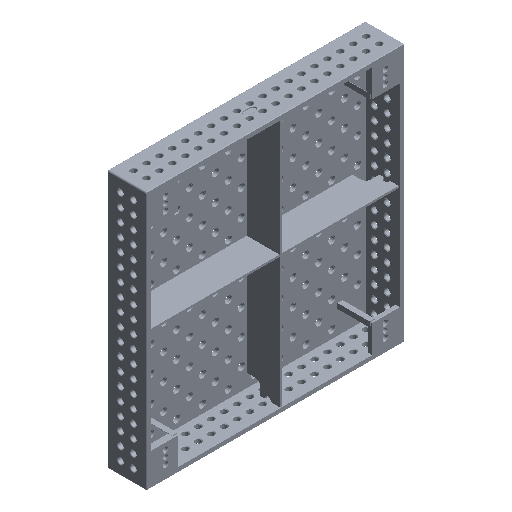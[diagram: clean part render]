
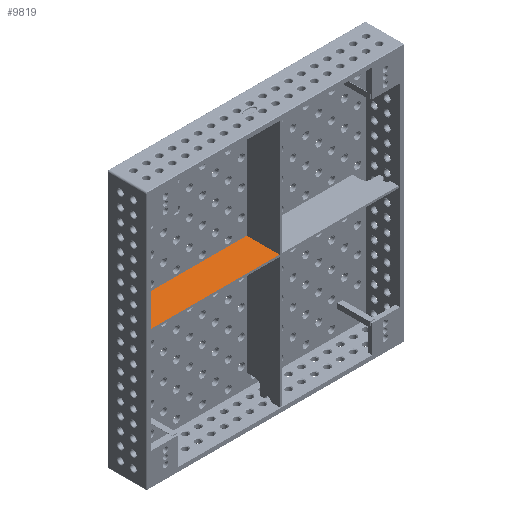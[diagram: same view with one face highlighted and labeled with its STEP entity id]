
A CAD part, isometric view. The second image highlights one B-rep face of the part: STEP entity #9819.
In plain terms, the highlighted planar face has unit normal (0, 0, 1).
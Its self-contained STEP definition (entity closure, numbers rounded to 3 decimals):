
#95 = DIRECTION ( 'NONE',  ( 0., 0., -1. ) ) ;
#452 = CARTESIAN_POINT ( 'NONE',  ( -482., -145., 29. ) ) ;
#786 = DIRECTION ( 'NONE',  ( 1., 0., 0. ) ) ;
#2246 = DIRECTION ( 'NONE',  ( 0., -1., 0. ) ) ;
#2568 = CARTESIAN_POINT ( 'NONE',  ( 21., -18., 29. ) ) ;
#2703 = VERTEX_POINT ( 'NONE', #17387 ) ;
#4111 = ORIENTED_EDGE ( 'NONE', *, *, #39587, .T. ) ;
#4781 = ORIENTED_EDGE ( 'NONE', *, *, #53793, .F. ) ;
#5331 = VECTOR ( 'NONE', #786, 1000. ) ;
#5633 = AXIS2_PLACEMENT_3D ( 'NONE', #13987, #95, #35148 ) ;
#6311 = DIRECTION ( 'NONE',  ( 0., -1., 0. ) ) ;
#6637 = CARTESIAN_POINT ( 'NONE',  ( -450., -70., 29. ) ) ;
#6923 = DIRECTION ( 'NONE',  ( 1., 0., 0. ) ) ;
#7234 = EDGE_CURVE ( 'NONE', #53060, #20561, #38112, .T. ) ;
#7292 = DIRECTION ( 'NONE',  ( 0., 0., 1. ) ) ;
#7881 = CARTESIAN_POINT ( 'NONE',  ( -482., -70., 29. ) ) ;
#9819 = ADVANCED_FACE ( 'NONE', ( #23438 ), #18482, .T. ) ;
#10335 = ORIENTED_EDGE ( 'NONE', *, *, #12219, .T. ) ;
#11521 = DIRECTION ( 'NONE',  ( -1., 0., 0. ) ) ;
#11863 = EDGE_LOOP ( 'NONE', ( #4781, #30481, #4111, #19753, #60994, #63781, #24911, #29550, #10335 ) ) ;
#12161 = CARTESIAN_POINT ( 'NONE',  ( -450., -70., 29. ) ) ;
#12205 = CARTESIAN_POINT ( 'NONE',  ( -450., -50., 29. ) ) ;
#12219 = EDGE_CURVE ( 'NONE', #20561, #49880, #39236, .T. ) ;
#12351 = DIRECTION ( 'NONE',  ( 0., -1., 0. ) ) ;
#13987 = CARTESIAN_POINT ( 'NONE',  ( -482., -100., 29. ) ) ;
#14035 = VECTOR ( 'NONE', #11521, 1000. ) ;
#17387 = CARTESIAN_POINT ( 'NONE',  ( -430., -18., 29. ) ) ;
#18048 = DIRECTION ( 'NONE',  ( 0., -1., 0. ) ) ;
#18482 = PLANE ( 'NONE',  #34821 ) ;
#19753 = ORIENTED_EDGE ( 'NONE', *, *, #26664, .T. ) ;
#20000 = EDGE_CURVE ( 'NONE', #46249, #36111, #21110, .T. ) ;
#20561 = VERTEX_POINT ( 'NONE', #45556 ) ;
#21110 = LINE ( 'NONE', #12161, #14035 ) ;
#21158 = DIRECTION ( 'NONE',  ( 0., 0., -1. ) ) ;
#22148 = LINE ( 'NONE', #32385, #59588 ) ;
#22596 = EDGE_CURVE ( 'NONE', #62164, #53060, #26715, .T. ) ;
#23438 = FACE_OUTER_BOUND ( 'NONE', #11863, .T. ) ;
#23799 = LINE ( 'NONE', #43981, #29288 ) ;
#24575 = AXIS2_PLACEMENT_3D ( 'NONE', #12205, #21158, #6923 ) ;
#24911 = ORIENTED_EDGE ( 'NONE', *, *, #22596, .T. ) ;
#26664 = EDGE_CURVE ( 'NONE', #50992, #46249, #38310, .T. ) ;
#26715 = CIRCLE ( 'NONE', #5633, 12.5 ) ;
#29288 = VECTOR ( 'NONE', #59243, 1000. ) ;
#29550 = ORIENTED_EDGE ( 'NONE', *, *, #7234, .T. ) ;
#30039 = EDGE_CURVE ( 'NONE', #36111, #62164, #32320, .T. ) ;
#30481 = ORIENTED_EDGE ( 'NONE', *, *, #48420, .T. ) ;
#32320 = LINE ( 'NONE', #62800, #47301 ) ;
#32385 = CARTESIAN_POINT ( 'NONE',  ( 21., -50., 29. ) ) ;
#34821 = AXIS2_PLACEMENT_3D ( 'NONE', #58885, #7292, #35341 ) ;
#35148 = DIRECTION ( 'NONE',  ( 1., 0., 0. ) ) ;
#35341 = DIRECTION ( 'NONE',  ( 1., 0., 0. ) ) ;
#36111 = VERTEX_POINT ( 'NONE', #7881 ) ;
#38112 = LINE ( 'NONE', #57678, #58806 ) ;
#38310 = CIRCLE ( 'NONE', #24575, 20. ) ;
#38794 = CARTESIAN_POINT ( 'NONE',  ( -430., -50., 29. ) ) ;
#39210 = CARTESIAN_POINT ( 'NONE',  ( -430., -50., 29. ) ) ;
#39236 = LINE ( 'NONE', #452, #5331 ) ;
#39587 = EDGE_CURVE ( 'NONE', #2703, #50992, #64741, .T. ) ;
#43981 = CARTESIAN_POINT ( 'NONE',  ( -430., -18., 29. ) ) ;
#45556 = CARTESIAN_POINT ( 'NONE',  ( -482., -145., 29. ) ) ;
#46249 = VERTEX_POINT ( 'NONE', #6637 ) ;
#47261 = CARTESIAN_POINT ( 'NONE',  ( 21., -145., 29. ) ) ;
#47301 = VECTOR ( 'NONE', #2246, 1000. ) ;
#48420 = EDGE_CURVE ( 'NONE', #60290, #2703, #23799, .T. ) ;
#48697 = CARTESIAN_POINT ( 'NONE',  ( -482., -87.5, 29. ) ) ;
#49483 = CARTESIAN_POINT ( 'NONE',  ( -482., -112.5, 29. ) ) ;
#49880 = VERTEX_POINT ( 'NONE', #47261 ) ;
#50992 = VERTEX_POINT ( 'NONE', #38794 ) ;
#53060 = VERTEX_POINT ( 'NONE', #49483 ) ;
#53793 = EDGE_CURVE ( 'NONE', #60290, #49880, #22148, .T. ) ;
#54754 = VECTOR ( 'NONE', #18048, 1000. ) ;
#57678 = CARTESIAN_POINT ( 'NONE',  ( -482., -112.5, 29. ) ) ;
#58806 = VECTOR ( 'NONE', #12351, 1000. ) ;
#58885 = CARTESIAN_POINT ( 'NONE',  ( -450., -50., 29. ) ) ;
#59243 = DIRECTION ( 'NONE',  ( -1., 0., 0. ) ) ;
#59588 = VECTOR ( 'NONE', #6311, 1000. ) ;
#60290 = VERTEX_POINT ( 'NONE', #2568 ) ;
#60994 = ORIENTED_EDGE ( 'NONE', *, *, #20000, .T. ) ;
#62164 = VERTEX_POINT ( 'NONE', #48697 ) ;
#62800 = CARTESIAN_POINT ( 'NONE',  ( -482., -70., 29. ) ) ;
#63781 = ORIENTED_EDGE ( 'NONE', *, *, #30039, .T. ) ;
#64741 = LINE ( 'NONE', #39210, #54754 ) ;
